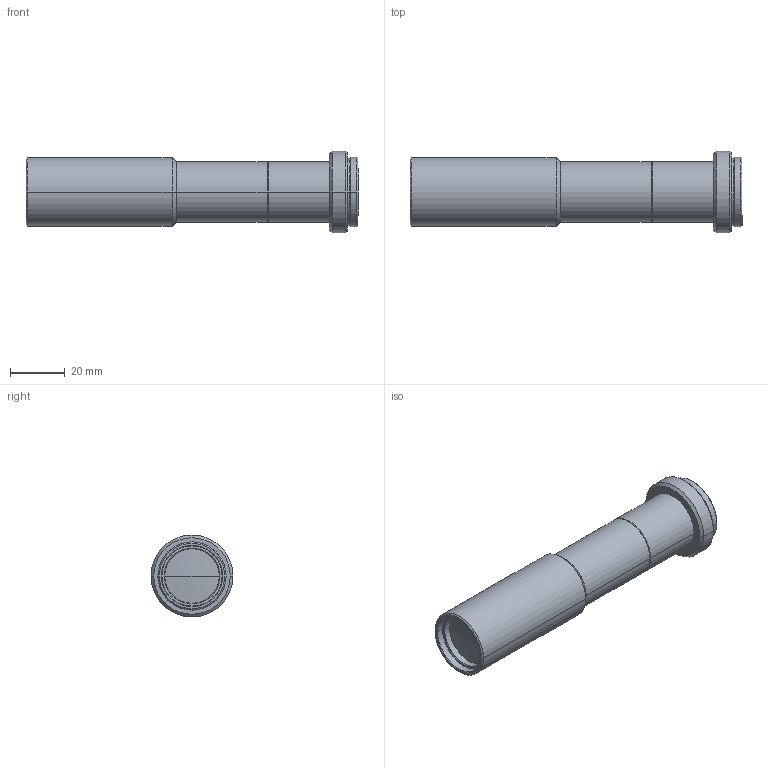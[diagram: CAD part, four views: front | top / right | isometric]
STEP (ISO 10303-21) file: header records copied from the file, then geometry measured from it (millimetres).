
FILE_DESCRIPTION (( 'STEP AP203' ), '1' );
FILE_NAME ('VS-TC08-170.STEP', '2019-01-15T00:21:10', ( '' ), ( '' ), 'SwSTEP 2.0', 'SolidWorks 2018', '' );
FILE_SCHEMA (( 'CONFIG_CONTROL_DESIGN' ));
Length unit declared in the file: millimetre
Products named in the file (1): VS-TC08-170
Bounding box: 121.62 x 30 x 30 mm (x, y, z)
Volume: 43970.2 mm3; surface area: 12965.1 mm2
Topology: 1 solids, 1 shells, 83 faces, 164 edges, 93 vertices
Faces by surface type: cone 42, cylinder 28, plane 11, sphere 2
Entity records: 2197 total; most frequent: DIRECTION 426, CARTESIAN_POINT 341, ORIENTED_EDGE 328, AXIS2_PLACEMENT_3D 178, EDGE_CURVE 164, CIRCLE 94, VERTEX_POINT 93, EDGE_LOOP 93
